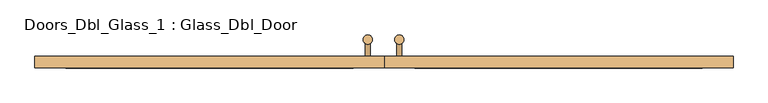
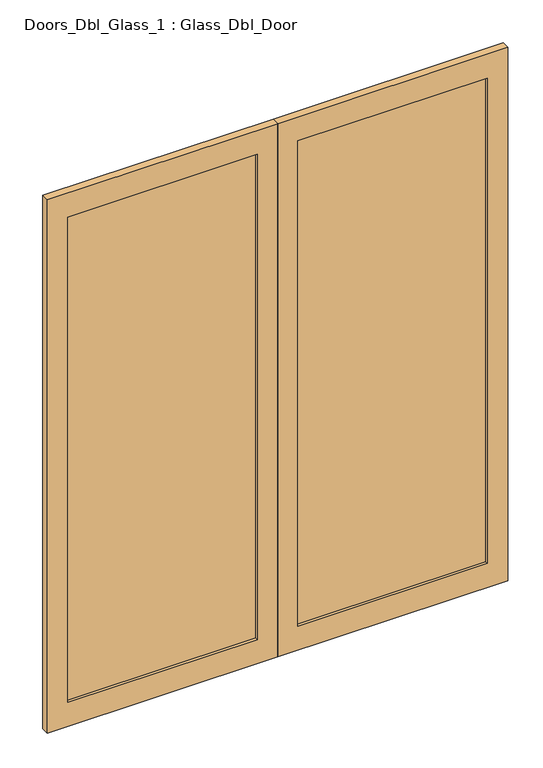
"""IFC4 building model written with IfcOpenShell, lengths in millimetres: door geometry, Doors_Dbl_Glass_1 : Glass_Dbl_Door."""

from ifc_helpers import new_model, si_unit, point, frame, frame_2d, origin, place, context, project, spatial, polyline, circle_curve, trimmed, segment, composite_curve, outline, extrude, source, transform, mapped, element, save


def doors_dbl_glass_1_glass_dbl_door_d0722a5c(model_context):
    return source(origin(), model_context, "Body", "SweptSolid", [
        extrude(outline(composite_curve([segment(trimmed(circle_curve(frame_2d((49.6069979, 116.0715804)), 15.0), [point((49.6069979, 101.0715804))], [point((49.6069979, 131.0715804))], False, "CARTESIAN"), True, "CONTINUOUS"), segment(trimmed(circle_curve(frame_2d((49.6069979, 116.0715804)), 15.0), [point((49.6069979, 131.0715804))], [point((49.6069979, 101.0715804))], False, "CARTESIAN"), True, "CONTINUOUS")], self_intersect=False)), frame((0.0, 0.0, 650.0), z_axis=(0.0, 0.0, 1.0), x_axis=(1.0, 0.0, 0.0)), (0.0, 0.0, 1.0), 900.0),
        extrude(outline(composite_curve([segment(trimmed(circle_curve(frame_2d((-52.537897, 116.0715804)), 15.0), [point((-52.537897, 101.0715804))], [point((-52.537897, 131.0715804))], False, "CARTESIAN"), True, "CONTINUOUS"), segment(trimmed(circle_curve(frame_2d((-52.537897, 116.0715804)), 15.0), [point((-52.537897, 131.0715804))], [point((-52.537897, 101.0715804))], False, "CARTESIAN"), True, "CONTINUOUS")], self_intersect=False)), frame((0.0, 0.0, 650.0), z_axis=(0.0, 0.0, 1.0), x_axis=(1.0, 0.0, 0.0)), (0.0, 0.0, 1.0), 900.0),
        extrude(outline(composite_curve([segment(trimmed(circle_curve(frame_2d((750.0, 49.6069979)), 8.0), [point((750.0, 57.6069979))], [point((750.0, 41.6069979))], False, "CARTESIAN"), True, "CONTINUOUS"), segment(trimmed(circle_curve(frame_2d((750.0, 49.6069979)), 8.0), [point((750.0, 41.6069979))], [point((750.0, 57.6069979))], False, "CARTESIAN"), True, "CONTINUOUS")], self_intersect=False)), frame((0.0, 62.5788556, 0.0), z_axis=(0.0, 1.0, 0.0), x_axis=(0.0, 0.0, 1.0)), (0.0, 0.0, 1.0), 53.4927248),
        extrude(outline(composite_curve([segment(trimmed(circle_curve(frame_2d((750.0, -52.537897)), 8.0), [point((750.0, -44.537897))], [point((750.0, -60.537897))], False, "CARTESIAN"), True, "CONTINUOUS"), segment(trimmed(circle_curve(frame_2d((750.0, -52.537897)), 8.0), [point((750.0, -60.537897))], [point((750.0, -44.537897))], False, "CARTESIAN"), True, "CONTINUOUS")], self_intersect=False)), frame((0.0, 62.5788556, 0.0), z_axis=(0.0, 1.0, 0.0), x_axis=(0.0, 0.0, 1.0)), (0.0, 0.0, 1.0), 53.4927248),
        extrude(outline(composite_curve([segment(trimmed(circle_curve(frame_2d((1450.0, 49.6069979)), 8.0), [point((1450.0, 57.6069979))], [point((1450.0, 41.6069979))], False, "CARTESIAN"), True, "CONTINUOUS"), segment(trimmed(circle_curve(frame_2d((1450.0, 49.6069979)), 8.0), [point((1450.0, 41.6069979))], [point((1450.0, 57.6069979))], False, "CARTESIAN"), True, "CONTINUOUS")], self_intersect=False)), frame((0.0, 62.5788556, 0.0), z_axis=(0.0, 1.0, 0.0), x_axis=(0.0, 0.0, 1.0)), (0.0, 0.0, 1.0), 53.4927248),
        extrude(outline(composite_curve([segment(trimmed(circle_curve(frame_2d((1450.0, -52.537897)), 8.0), [point((1450.0, -44.537897))], [point((1450.0, -60.537897))], False, "CARTESIAN"), True, "CONTINUOUS"), segment(trimmed(circle_curve(frame_2d((1450.0, -52.537897)), 8.0), [point((1450.0, -60.537897))], [point((1450.0, -44.537897))], False, "CARTESIAN"), True, "CONTINUOUS")], self_intersect=False)), frame((0.0, 62.5788556, 0.0), z_axis=(0.0, 1.0, 0.0), x_axis=(0.0, 0.0, 1.0)), (0.0, 0.0, 1.0), 53.4927248),
        extrude(outline(polyline([(2775.0, -1132.6127956), (0.0, -1132.6127956), (0.0, 0.0), (2775.0, 0.0), (2775.0, -1132.6127956)]), holes=[polyline([(2650.0, -1032.6127956), (2650.0, -100.0), (125.0, -100.0), (125.0, -1032.6127956), (2650.0, -1032.6127956)])]), frame((0.0, 24.035259, 0.0), z_axis=(0.0, 1.0, 0.0), x_axis=(0.0, 0.0, 1.0)), (0.0, 0.0, 1.0), 38.5435966),
        extrude(outline(polyline([(2775.0, 0.0), (0.0, 0.0), (0.0, 1132.6127956), (2775.0, 1132.6127956), (2775.0, 0.0)]), holes=[polyline([(2650.0, 100.0), (2650.0, 1032.6127956), (125.0, 1032.6127956), (125.0, 100.0), (2650.0, 100.0)])]), frame((0.0, 24.035259, 0.0), z_axis=(0.0, 1.0, 0.0), x_axis=(0.0, 0.0, 1.0)), (0.0, 0.0, 1.0), 38.5435966),
        extrude(outline(polyline([(-100.0, 38.0), (-1032.6127956, 38.0), (-1032.6127956, 50.0), (-100.0, 50.0), (-100.0, 38.0)])), frame((0.0, 0.0, 125.0), z_axis=(0.0, 0.0, 1.0), x_axis=(1.0, 0.0, 0.0)), (0.0, 0.0, 1.0), 2525.0),
        extrude(outline(polyline([(1032.6127956, 38.0), (100.0, 38.0), (100.0, 50.0), (1032.6127956, 50.0), (1032.6127956, 38.0)])), frame((0.0, 0.0, 125.0), z_axis=(0.0, 0.0, 1.0), x_axis=(1.0, 0.0, 0.0)), (0.0, 0.0, 1.0), 2525.0),
    ])


if __name__ == "__main__":
    model = new_model("IFC4")
    model_context = context("Model", 3, world=origin())
    ifc_project = project(units=[si_unit("LENGTHUNIT", "METRE", prefix="MILLI")], contexts=[model_context])
    site = spatial("IfcSite", under=ifc_project)
    building = spatial("IfcBuilding", under=site)
    placement = place(None, origin())
    doors_dbl_glass_1_glass_dbl_door_shape = doors_dbl_glass_1_glass_dbl_door_d0722a5c(model_context)
    element("IfcDoor", 1, ObjectType="Doors_Dbl_Glass_1 : Glass_Dbl_Door", at=placement, inside=building, context=model_context, shape_type="MappedRepresentation", body=[
        mapped(doors_dbl_glass_1_glass_dbl_door_shape, transform((0.0, 0.0, 0.0), x_axis=(1.0, 0.0, 0.0), y_axis=(0.0, 1.0, 0.0), z_axis=(0.0, 0.0, 1.0))),
    ])
    save(model, "model.ifc")
